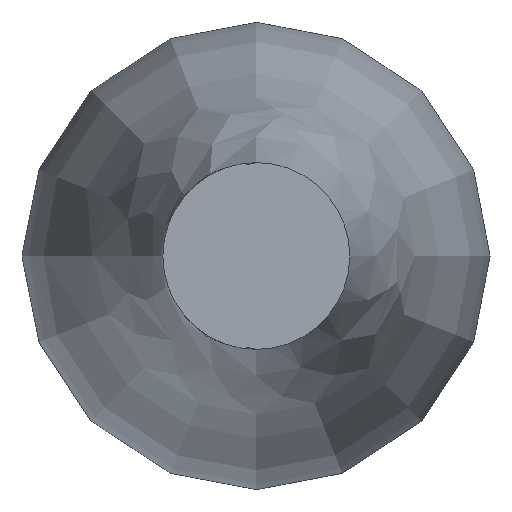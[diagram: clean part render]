
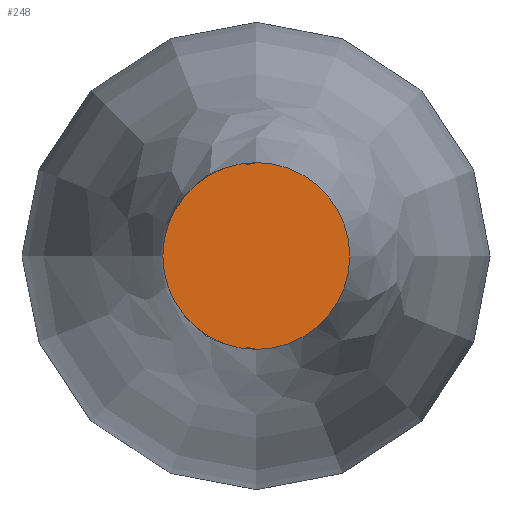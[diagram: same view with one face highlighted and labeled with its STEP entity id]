
A CAD part, left-side view. The second image highlights one B-rep face of the part: STEP entity #248.
In plain terms, the highlighted planar face has unit normal (-1, 0, 0).
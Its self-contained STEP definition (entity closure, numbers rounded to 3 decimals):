
#205=CARTESIAN_POINT('',(55.0,20.0,0.0));
#206=VERTEX_POINT('',#205);
#230=CARTESIAN_POINT('',(55.0,0.0,0.0));
#231=DIRECTION('',(1.0,0.0,0.0));
#232=DIRECTION('',(0.0,1.0,0.0));
#233=AXIS2_PLACEMENT_3D('',#230,#231,#232);
#234=CIRCLE('',#233,20.0);
#235=EDGE_CURVE('',#206,#206,#234,.T.);
#240=CARTESIAN_POINT('',(55.0,10.0,0.0));
#241=DIRECTION('',(-1.0,0.0,0.0));
#242=DIRECTION('',(0.0,0.0,1.0));
#243=AXIS2_PLACEMENT_3D('',#240,#241,#242);
#244=PLANE('',#243);
#245=ORIENTED_EDGE('',*,*,#235,.F.);
#246=EDGE_LOOP('',(#245));
#247=FACE_OUTER_BOUND('',#246,.T.);
#248=ADVANCED_FACE('',(#247),#244,.T.);
